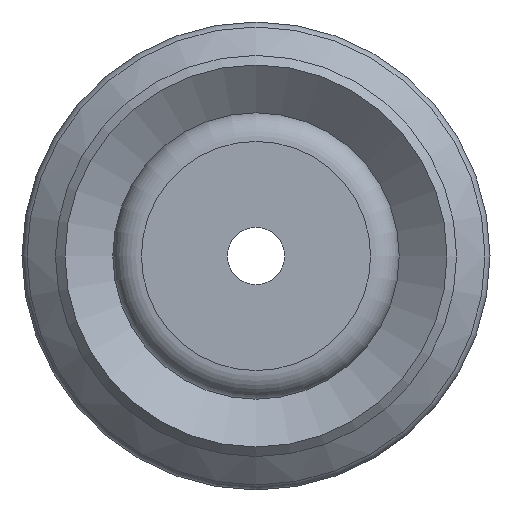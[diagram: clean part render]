
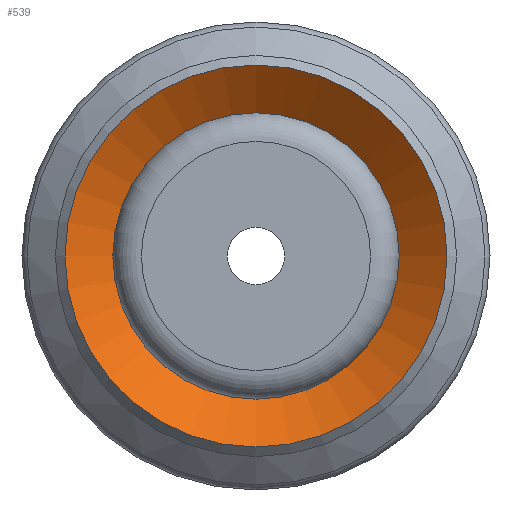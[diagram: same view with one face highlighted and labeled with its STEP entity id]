
A CAD part, front view. The second image highlights one B-rep face of the part: STEP entity #539.
In plain terms, the highlighted conical face has half-angle 52 degrees and reference radius 3 mm.
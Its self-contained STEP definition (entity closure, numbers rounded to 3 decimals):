
#539=ADVANCED_FACE('',(#769,#770),#771,.F.);
#769=FACE_BOUND('',#1042,.T.);
#770=FACE_OUTER_BOUND('',#1043,.T.);
#771=CONICAL_SURFACE('',#1044,3.0,0.908);
#1042=EDGE_LOOP('',(#1659));
#1043=EDGE_LOOP('',(#1660));
#1044=AXIS2_PLACEMENT_3D('',#1661,#1662,#1663);
#1659=ORIENTED_EDGE('',*,*,#1956,.F.);
#1660=ORIENTED_EDGE('',*,*,#1949,.T.);
#1661=CARTESIAN_POINT('',(0.0,7.741,0.));
#1662=DIRECTION('',(-0.0,-1.0,0.));
#1663=DIRECTION('',(0.0,0.,-1.0));
#1949=EDGE_CURVE('',#2227,#2227,#2228,.T.);
#1956=EDGE_CURVE('',#2241,#2241,#2242,.T.);
#2227=VERTEX_POINT('',#2841);
#2228=CIRCLE('',#2842,4.0);
#2241=VERTEX_POINT('',#2855);
#2242=CIRCLE('',#2856,3.0);
#2841=CARTESIAN_POINT('',(0.0,6.96,-4.0));
#2842=AXIS2_PLACEMENT_3D('',#3145,#3146,#3147);
#2855=CARTESIAN_POINT('',(0.0,7.741,-3.0));
#2856=AXIS2_PLACEMENT_3D('',#3166,#3167,#3168);
#3145=CARTESIAN_POINT('',(0.0,6.96,0.0));
#3146=DIRECTION('',(0.0,-1.0,0.));
#3147=DIRECTION('',(0.0,0.,-1.0));
#3166=CARTESIAN_POINT('',(0.0,7.741,0.));
#3167=DIRECTION('',(0.0,-1.0,0.));
#3168=DIRECTION('',(0.0,0.,-1.0));
